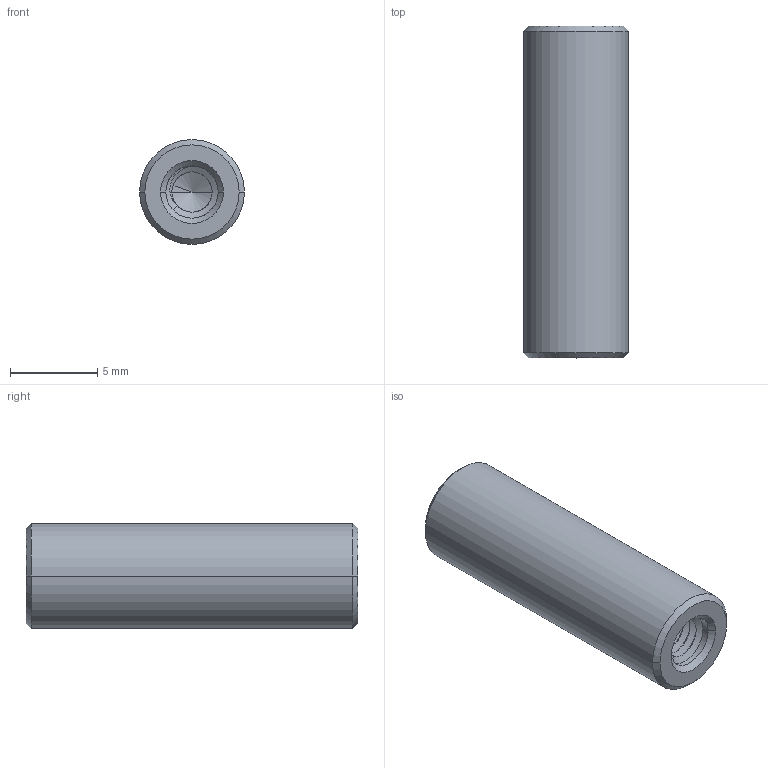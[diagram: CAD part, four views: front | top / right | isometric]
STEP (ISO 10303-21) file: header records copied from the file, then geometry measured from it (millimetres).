
FILE_DESCRIPTION((''),'2;1');
FILE_NAME('PCM-S_19','2021-04-19T',('Administrator'),(''),'CREO PARAMETRIC BY PTC INC, 2015290','CREO PARAMETRIC BY PTC INC, 2015290','');
FILE_SCHEMA(('CONFIG_CONTROL_DESIGN'));
Length unit declared in the file: millimetre
Products named in the file (1): PCM-S_19
Bounding box: 6 x 19 x 6 mm (x, y, z)
Volume: 444 mm3; surface area: 617.2 mm2
Topology: 1 solids, 1 shells, 93 faces, 253 edges, 160 vertices
Faces by surface type: cylinder 55, bspline 24, cone 12, plane 2
Entity records: 7564 total; most frequent: CARTESIAN_POINT 5543, ORIENTED_EDGE 498, DIRECTION 266, EDGE_CURVE 249, VERTEX_POINT 160, B_SPLINE_CURVE_WITH_KNOTS 141, EDGE_LOOP 95, FACE_OUTER_BOUND 93
